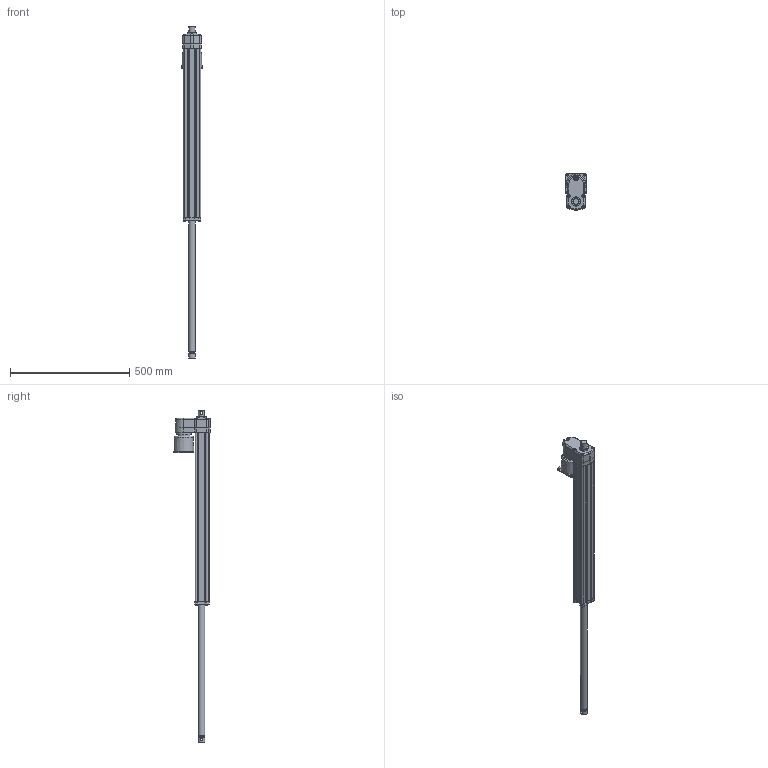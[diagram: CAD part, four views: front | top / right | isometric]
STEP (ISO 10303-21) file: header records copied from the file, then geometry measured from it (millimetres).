
FILE_DESCRIPTION (( 'STEP AP214' ), '1' );
FILE_NAME ('FA14-05B65M55M0_tollo.step', '2020-04-15T18:27:41', ( '' ), ( '' ), 'SwSTEP 2.0', 'SolidWorks 2010', '' );
FILE_SCHEMA (( 'AUTOMOTIVE_DESIGN' ));
Length unit declared in the file: millimetre
Products named in the file (9): Electrak-FA14-House-Ball-Tollo; Electrak-FA14-Rear-Tollo; Electrak-FA14-Motor-Tollo; Electrak-FA14-Tube-Ball-Tollo; Electrak-FA14-Plate-Tollo; Screw-MRT-TT-M5; Screw-M6S-M5; Electrak-FA14-Rod-Ball-Tollo; FA14-05B65M55M0_tollo
Assembly tree (15 placements, depth 3):
  FA14-05B65M55M0_tollo
    Electrak-FA14-Rod-Ball-Tollo
    Electrak-FA14-House-Ball-Tollo
      Screw-M6S-M5  x8
      Electrak-FA14-Plate-Tollo
      Electrak-FA14-Tube-Ball-Tollo
      Electrak-FA14-Rear-Tollo
      Electrak-FA14-Motor-Tollo
      Screw-MRT-TT-M5
Bounding box: 85 x 154.18 x 1394 mm (x, y, z)
Volume: 1865450.3 mm3; surface area: 628449.5 mm2
Topology: 14 solids, 14 shells, 509 faces, 1279 edges, 826 vertices
Faces by surface type: plane 234, cylinder 198, cone 57, torus 18, bspline 2
Full cylindrical faces by diameter (mm): 4.126 x8, 4.8 x6, 5 x8, 5.6 x4, 6 x1, 7 x4, 7.878 x8, 9.5 x1, 11.741 x1, 12.2 x2, 25.4 x1, 28.5 x4, 34.5 x1, 47.625 x1, 50 x1, 65 x1, 80 x1
Entity records: 11671 total; most frequent: CARTESIAN_POINT 2704, DIRECTION 1857, ORIENTED_EDGE 1700, EDGE_CURVE 850, AXIS2_PLACEMENT_3D 686, VERTEX_POINT 577, LINE 485, VECTOR 485
